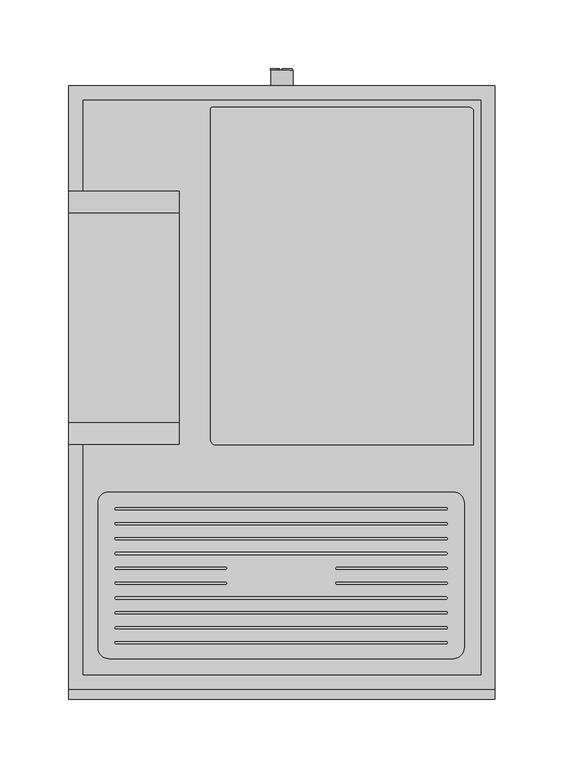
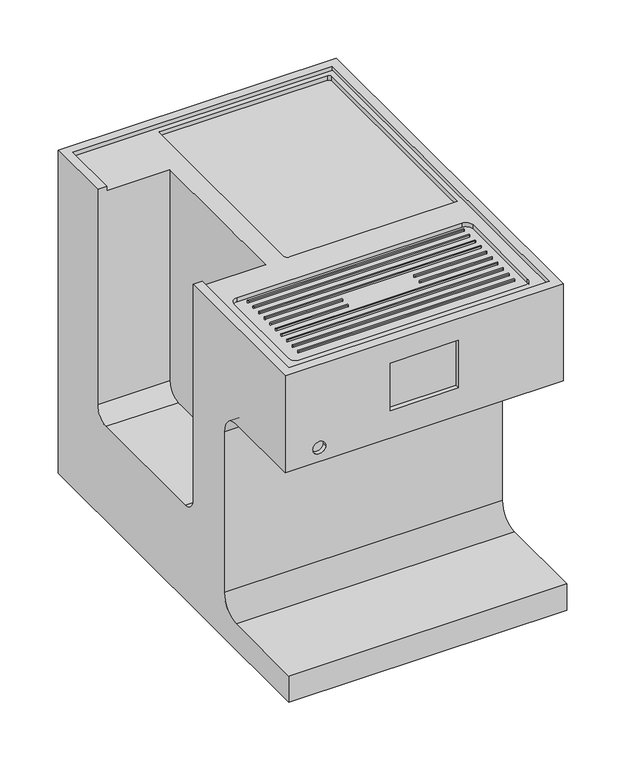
"""IFC4 building model written with IfcOpenShell, lengths in millimetres: proxy geometry, 11025220_NER_CM7550_BRWS : 29755010_NER_11025220_CM7550_BRWS."""

from ifc_helpers import new_model, si_unit, point, frame, frame_2d, origin, origin_with_axes, place, context, project, spatial, polyline, circle_curve, trimmed, segment, composite_curve, outline, extrude, source, transform, mapped, element, save
from ifc_brep_helpers import plane_surface, revolved_surface, advanced_brep


def specialty_equipment_c6b5fed6(model_context):
    return source(origin(), model_context, "Body", "SolidModel", [
        advanced_brep(
        [(-72.7464893, -6.5820312, 286.3395521), (-72.7464893, -6.5820312, 16.3993974), (-72.7464893, 0.0, 16.3993974), (-72.7464893, 0.0, 286.3395521), (67.1699982, -1.4311593, 242.6997663), (67.1699982, -1.4311593, 280.3997633), (67.1699982, 0.0, 280.3997633), (67.1699982, 0.0, 242.6997663), (139.3445587, -18.6554565, 387.0), (139.3445587, -260.9074012, 387.0), (139.3445587, -260.9074012, 392.0), (139.3445587, -18.6554565, 392.0), (136.3445587, -15.6554565, 387.0), (136.3445587, -15.6554565, 392.0), (-124.1509726, -433.3821149, 298.9499998), (-109.871069, -433.3821149, 298.9499998), (-109.871069, -438.3821149, 298.9499998), (-124.1509726, -438.3821149, 298.9499998), (155.0, -438.3821149, 397.0), (155.0, -438.3821149, 282.4328861), (155.0, -343.8005135, 282.4328861), (155.0, -320.8005135, 259.4328861), (155.0, -320.8005135, 70.3993974), (155.0, -343.8005135, 47.3993974), (155.0, -445.5820312, 47.3993974), (155.0, -445.5820312, 16.3993974), (155.0, -297.5804642, 16.3993974), (155.0, -297.5804642, 391.7036314), (155.0, -295.1106834, 391.7036314), (155.0, -295.1106834, 16.3993974), (155.0, -18.5962654, 16.3993974), (155.0, -18.5962654, 391.7036314), (155.0, -16.6439936, 391.7036314), (155.0, -16.6439936, 16.3993974), (155.0, 0.0, 16.3993974), (155.0, 0.0, 397.0), (155.0, -274.1723402, 377.3844175), (155.0, -40.3820038, 377.3844175), (155.0, -40.3820038, 370.415576), (155.0, -274.1723402, 370.415576), (-155.0, 0.0, 397.0), (-155.0, 0.0, 16.3993974), (-155.0, -445.5820312, 16.3993974), (-155.0, -445.5820312, 47.3993974), (-155.0, -343.8005135, 47.3993974), (-155.0, -320.8005135, 70.3993974), (-155.0, -320.8005135, 259.4328861), (-155.0, -343.8005135, 282.4328861), (-155.0, -438.3821149, 282.4328861), (-155.0, -438.3821149, 397.0), (-155.0, -260.8993144, 397.0), (-155.0, -260.8993144, 143.1722611), (-155.0, -244.8993144, 127.1722611), (-155.0, -92.0598421, 127.1722611), (-155.0, -76.0598421, 143.1722611), (-155.0, -76.0598421, 397.0), (-71.7464893, -6.5820312, 16.3993974), (-71.7464893, 0.0, 16.3993974), (71.7464893, 0.0, 16.3993974), (71.7464893, -6.5820312, 16.3993974), (72.7464893, -6.5820312, 16.3993974), (72.7464893, 0.0, 16.3993974), (148.8000031, -16.6439936, 16.3993974), (148.8000031, -18.5962654, 16.3993974), (148.8000031, -295.1106834, 16.3993974), (148.8000031, -297.5804642, 16.3993974), (72.7464893, 0.0, 286.3395521), (-71.7464893, 0.0, 285.3395521), (71.7464893, 0.0, 285.3395521), (-67.2299957, 0.0, 280.3997633), (-67.2299957, 0.0, 242.6997663), (66.1699982, 0.0, 279.3997633), (66.1699982, 0.0, 243.6997663), (-66.2299957, 0.0, 243.6997663), (-66.2299957, 0.0, 279.3997633), (-74.3005066, -92.0598421, 127.1722611), (-74.3005066, -76.0598421, 143.1722611), (-125.7733765, -295.1106834, 387.0), (124.609314, -295.1106834, 387.0), (124.609314, -295.1106834, 392.0), (-125.7733765, -295.1106834, 392.0), (148.8000031, -295.1106834, 391.7036314), (148.8000031, -297.5804642, 391.7036314), (-66.2299957, -1.4311593, 279.3997633), (66.1699982, -1.4311593, 279.3997633), (147.1000061, -274.1723402, 370.415576), (147.1000061, -274.1723402, 377.3844175), (147.1000061, -40.3820038, 377.3844175), (147.1000061, -40.3820038, 370.415576), (-71.7464893, -6.5820312, 285.3395521), (71.7464893, -6.5820312, 285.3395521), (72.7464893, -6.5820312, 286.3395521), (66.1699982, -1.4311593, 243.6997663), (-145.0, -76.0598421, 397.0), (-145.0, -9.9540739, 397.0), (145.0, -9.9540739, 397.0), (145.0, -428.3821149, 397.0), (-145.0, -428.3821149, 397.0), (-145.0, -260.8993144, 397.0), (-38.0, -438.3821149, 371.0), (38.0, -438.3821149, 371.0), (38.0, -438.3821149, 315.0), (-38.0, -438.3821149, 315.0), (-74.3005066, -244.8993144, 127.1722611), (-74.3005066, -260.8993144, 143.1722611), (-74.3005066, -260.8993144, 392.0), (-74.3005066, -76.0598421, 392.0), (-145.0, -260.8993144, 392.0), (-145.0, -76.0598421, 392.0), (-145.0, -428.3821149, 392.0), (145.0, -428.3821149, 392.0), (145.0, -9.9540739, 392.0), (-145.0, -9.9540739, 392.0), (-50.8837091, -15.6554565, 392.0), (-47.8837091, -260.9074012, 392.0), (-51.8837091, -256.9074012, 392.0), (-51.8837091, -16.6554565, 392.0), (132.609314, -303.1106834, 392.0), (132.609314, -408.1485367, 392.0), (124.609314, -416.1485367, 392.0), (-125.7733765, -416.1485367, 392.0), (-133.7733765, -408.1485367, 392.0), (-133.7733765, -303.1106834, 392.0), (-133.7733765, -303.1106834, 387.0), (-133.7733765, -408.1485367, 387.0), (-125.7733765, -416.1485367, 387.0), (124.609314, -416.1485367, 387.0), (132.609314, -408.1485367, 387.0), (132.609314, -303.1106834, 387.0), (-67.2299957, -1.4311593, 280.3997633), (-67.2299957, -1.4311593, 242.6997663), (-66.2299957, -1.4311593, 243.6997663), (-50.8837091, -15.6554565, 387.0), (-51.8837091, -16.6554565, 387.0), (-51.8837091, -256.9074012, 387.0), (-47.8837091, -260.9074012, 387.0), (148.8000031, -16.6439936, 391.7036314), (148.8000031, -18.5962654, 391.7036314), (38.0, -433.3821149, 371.0), (-38.0, -433.3821149, 371.0), (-38.0, -433.3821149, 315.0), (38.0, -433.3821149, 315.0)],
        [
            (0, 1),
            (1, 2),
            (2, 3),
            (3, 0),
            (4, 5),
            (5, 6),
            (6, 7),
            (7, 4),
            (8, 9),
            (9, 10),
            (10, 11),
            (11, 8),
            (12, 8, circle_curve(frame((136.3445587, -18.6554565, 387.0), z_axis=(0.0, 0.0, -1.0), x_axis=(1.0, 0.0, 0.0)), 3.0)),
            (11, 13, circle_curve(frame((136.3445587, -18.6554565, 392.0), z_axis=(0.0, 0.0, 1.0), x_axis=(1.0, 0.0, 0.0)), 3.0)),
            (13, 12),
            (14, 15, circle_curve(frame((-117.0110208, -433.3821149, 298.9499998), z_axis=(0.0, 1.0, 0.0), x_axis=(1.0, 0.0, 0.0)), 7.1399518)),
            (15, 16),
            (16, 17, circle_curve(frame((-117.0110208, -438.3821149, 298.9499998), z_axis=(0.0, -1.0, 0.0), x_axis=(1.0, 0.0, 0.0)), 7.1399518)),
            (17, 14),
            (18, 19),
            (19, 20),
            (20, 21, circle_curve(frame((155.0, -343.8005135, 259.4328861), z_axis=(-1.0, 0.0, 0.0), x_axis=(0.0, 1.0, 0.0)), 23.0)),
            (21, 22),
            (22, 23, circle_curve(frame((155.0, -343.8005135, 70.3993974), z_axis=(-1.0, 0.0, 0.0), x_axis=(0.0, 1.0, 0.0)), 23.0)),
            (23, 24),
            (24, 25),
            (25, 26),
            (26, 27),
            (27, 28),
            (28, 29),
            (29, 30),
            (30, 31),
            (31, 32),
            (32, 33),
            (33, 34),
            (34, 35),
            (35, 18),
            (36, 37),
            (37, 38),
            (38, 39),
            (39, 36),
            (40, 41),
            (41, 42),
            (42, 43),
            (43, 44),
            (44, 45, circle_curve(frame((-155.0, -343.8005135, 70.3993974), z_axis=(1.0, 0.0, 0.0), x_axis=(0.0, 1.0, 0.0)), 23.0)),
            (45, 46),
            (46, 47, circle_curve(frame((-155.0, -343.8005135, 259.4328861), z_axis=(1.0, 0.0, 0.0), x_axis=(0.0, 1.0, 0.0)), 23.0)),
            (47, 48),
            (48, 49),
            (49, 50),
            (50, 51),
            (51, 52, circle_curve(frame((-155.0, -244.8993144, 143.1722611), z_axis=(1.0, 0.0, 0.0), x_axis=(0.0, 1.0, 0.0)), 16.0)),
            (52, 53),
            (53, 54, circle_curve(frame((-155.0, -92.0598421, 143.1722611), z_axis=(1.0, 0.0, 0.0), x_axis=(0.0, 1.0, 0.0)), 16.0)),
            (54, 55),
            (55, 40),
            (41, 2),
            (1, 56),
            (56, 57),
            (57, 58),
            (58, 59),
            (59, 60),
            (60, 61),
            (61, 34),
            (33, 62),
            (62, 63),
            (63, 30),
            (29, 64),
            (64, 65),
            (65, 26),
            (25, 42),
            (61, 66),
            (66, 3),
            (40, 35),
            (57, 67),
            (67, 68),
            (68, 58),
            (69, 70),
            (70, 7),
            (6, 69),
            (71, 72),
            (72, 73),
            (73, 74),
            (74, 71),
            (24, 43),
            (75, 76, circle_curve(frame((-74.3005066, -92.0598421, 143.1722611), z_axis=(1.0, 0.0, 0.0), x_axis=(0.0, 1.0, 0.0)), 16.0)),
            (76, 54),
            (53, 75),
            (77, 78),
            (78, 79),
            (79, 80),
            (80, 77),
            (81, 64),
            (28, 81),
            (65, 82),
            (82, 27),
            (83, 84),
            (84, 71),
            (74, 83),
            (85, 86),
            (86, 36),
            (39, 85),
            (87, 88),
            (88, 38),
            (37, 87),
            (89, 90),
            (90, 68),
            (67, 89),
            (60, 91),
            (91, 66),
            (84, 92),
            (92, 72),
            (55, 93),
            (93, 94),
            (94, 95),
            (95, 96),
            (96, 97),
            (97, 98),
            (98, 50),
            (49, 18),
            (48, 19),
            (16, 17, circle_curve(frame((-117.0110208, -438.3821149, 298.9499998), z_axis=(0.0, 1.0, 0.0), x_axis=(1.0, 0.0, 0.0)), 7.1399518)),
            (99, 100),
            (100, 101),
            (101, 102),
            (102, 99),
            (47, 20),
            (46, 21),
            (45, 22),
            (44, 23),
            (75, 103),
            (103, 104, circle_curve(frame((-74.3005066, -244.8993144, 143.1722611), z_axis=(-1.0, 0.0, 0.0), x_axis=(0.0, 1.0, 0.0)), 16.0)),
            (104, 105),
            (105, 106),
            (106, 76),
            (104, 51),
            (98, 107),
            (107, 105),
            (103, 52),
            (106, 108),
            (108, 93),
            (109, 110),
            (110, 111),
            (111, 112),
            (112, 108),
            (107, 109),
            (113, 13),
            (10, 114),
            (114, 115, circle_curve(frame((-47.8837091, -256.9074012, 392.0), z_axis=(0.0, 0.0, -1.0), x_axis=(1.0, 0.0, 0.0)), 4.0)),
            (115, 116),
            (116, 113, circle_curve(frame((-50.8837091, -16.6554565, 392.0), z_axis=(0.0, 0.0, -1.0), x_axis=(1.0, 0.0, 0.0)), 1.0)),
            (79, 117, circle_curve(frame((124.609314, -303.1106834, 392.0), z_axis=(0.0, 0.0, -1.0), x_axis=(1.0, 0.0, 0.0)), 8.0)),
            (117, 118),
            (118, 119, circle_curve(frame((124.609314, -408.1485367, 392.0), z_axis=(0.0, 0.0, -1.0), x_axis=(1.0, 0.0, 0.0)), 8.0)),
            (119, 120),
            (120, 121, circle_curve(frame((-125.7733765, -408.1485367, 392.0), z_axis=(0.0, 0.0, -1.0), x_axis=(1.0, 0.0, 0.0)), 8.0)),
            (121, 122),
            (122, 80, circle_curve(frame((-125.7733765, -303.1106834, 392.0), z_axis=(0.0, 0.0, -1.0), x_axis=(1.0, 0.0, 0.0)), 8.0)),
            (109, 97),
            (96, 110),
            (95, 111),
            (94, 112),
            (77, 123, circle_curve(frame((-125.7733765, -303.1106834, 387.0), z_axis=(0.0, 0.0, 1.0), x_axis=(1.0, 0.0, 0.0)), 8.0)),
            (123, 124),
            (124, 125, circle_curve(frame((-125.7733765, -408.1485367, 387.0), z_axis=(0.0, 0.0, 1.0), x_axis=(1.0, 0.0, 0.0)), 8.0)),
            (125, 126),
            (126, 127, circle_curve(frame((124.609314, -408.1485367, 387.0), z_axis=(0.0, 0.0, 1.0), x_axis=(1.0, 0.0, 0.0)), 8.0)),
            (127, 128),
            (128, 78, circle_curve(frame((124.609314, -303.1106834, 387.0), z_axis=(0.0, 0.0, 1.0), x_axis=(1.0, 0.0, 0.0)), 8.0)),
            (122, 123),
            (121, 124),
            (120, 125),
            (119, 126),
            (118, 127),
            (117, 128),
            (129, 5),
            (4, 130),
            (130, 129),
            (83, 131),
            (131, 92),
            (130, 70),
            (69, 129),
            (12, 132),
            (132, 133, circle_curve(frame((-50.8837091, -16.6554565, 387.0), z_axis=(0.0, 0.0, 1.0), x_axis=(1.0, 0.0, 0.0)), 1.0)),
            (133, 134),
            (134, 135, circle_curve(frame((-47.8837091, -256.9074012, 387.0), z_axis=(0.0, 0.0, 1.0), x_axis=(1.0, 0.0, 0.0)), 4.0)),
            (135, 9),
            (113, 132),
            (116, 133),
            (115, 134),
            (114, 135),
            (14, 15, circle_curve(frame((-117.0110208, -433.3821149, 298.9499998), z_axis=(0.0, -1.0, 0.0), x_axis=(1.0, 0.0, 0.0)), 7.1399518)),
            (0, 91),
            (59, 90),
            (89, 56),
            (131, 73),
            (87, 86),
            (85, 88),
            (81, 82),
            (62, 136),
            (136, 137),
            (137, 63),
            (32, 136),
            (31, 137),
            (138, 139),
            (139, 140),
            (140, 141),
            (141, 138),
            (138, 100),
            (99, 139),
            (102, 140),
            (101, 141),
        ],
        [
            plane_surface(frame((-72.7464893, -6.5820312, 286.3395521), z_axis=(1.0, 0.0, 0.0), x_axis=(0.0, 1.0, 0.0))),
            plane_surface(frame((67.1699982, -1.4311593, 242.6997663), z_axis=(-1.0, 0.0, 0.0), x_axis=(0.0, 1.0, 0.0))),
            plane_surface(frame((139.3445587, -260.9074012, 397.0), z_axis=(-1.0, 0.0, 0.0), x_axis=(0.0, 0.0, -1.0))),
            revolved_surface(polyline([(139.3445587, -18.6554565, 392.0), (139.3445587, -18.6554565, 387.0)]), (136.3445587, -18.6554565, 387.0), (0.0, 0.0, 1.0)),
            revolved_surface(polyline([(-109.87106899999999, -438.3821149, 298.9499998), (-109.87106899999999, -433.3821149, 298.9499998)]), (-117.0110208, -433.3821149, 298.9499998), (0.0, -1.0, 0.0)),
            plane_surface(frame((155.0, -438.3821149, 397.0), z_axis=(1.0, 0.0, 0.0), x_axis=(0.0, 0.0, -1.0))),
            plane_surface(frame((-155.0, -438.3821149, 397.0), z_axis=(-1.0, 0.0, 0.0), x_axis=(0.0, 0.0, 1.0))),
            plane_surface(frame((155.0, -445.5820312, 16.3993974), z_axis=(0.0, 0.0, -1.0), x_axis=(-1.0, 0.0, 0.0))),
            plane_surface(frame((155.0, 0.0, 16.3993974), z_axis=(0.0, 1.0, 0.0), x_axis=(-1.0, 0.0, 0.0))),
            plane_surface(frame((155.0, -445.5820312, 47.3993974), z_axis=(0.0, -1.0, 0.0), x_axis=(-1.0, 0.0, 0.0))),
            revolved_surface(polyline([(-74.3005066, -76.0598421, 143.1722611), (-155.0, -76.0598421, 143.1722611)]), (-184.0228521, -92.0598421, 143.1722611), (1.0, 0.0, 0.0)),
            plane_surface(frame((124.609314, -295.1106834, 392.0), z_axis=(0.0, -1.0, 0.0), x_axis=(0.0, 0.0, -1.0))),
            plane_surface(frame((250.0, -295.1106834, 16.3993974), z_axis=(0.0, -1.0, 0.0), x_axis=(-1.0, 0.0, 0.0))),
            plane_surface(frame((250.0, -297.5804642, 391.7036314), z_axis=(0.0, 1.0, 0.0), x_axis=(-1.0, 0.0, 0.0))),
            plane_surface(frame((-66.2299957, -1.4311593, 279.3997633), z_axis=(0.0, 0.0, 1.0), x_axis=(0.0, 1.0, 0.0))),
            plane_surface(frame((190.8403148, -274.1723402, 377.3844175), z_axis=(0.0, 1.0, 0.0), x_axis=(-1.0, 0.0, 0.0))),
            plane_surface(frame((190.8403148, -40.3820038, 370.415576), z_axis=(0.0, -1.0, 0.0), x_axis=(-1.0, 0.0, 0.0))),
            plane_surface(frame((-71.7464893, -6.5820312, 285.3395521), z_axis=(0.0, 0.0, 1.0), x_axis=(0.0, 1.0, 0.0))),
            plane_surface(frame((72.7464893, -6.5820312, 16.3993974), z_axis=(-1.0, 0.0, 0.0), x_axis=(0.0, 1.0, 0.0))),
            plane_surface(frame((66.1699982, -1.4311593, 279.3997633), z_axis=(1.0, 0.0, 0.0), x_axis=(0.0, 1.0, 0.0))),
            plane_surface(frame((155.0, 0.0, 397.0), z_axis=(0.0, 0.0, 1.0), x_axis=(-1.0, 0.0, 0.0))),
            plane_surface(frame((155.0, -438.3821149, 397.0), z_axis=(0.0, -1.0, 0.0), x_axis=(-1.0, 0.0, 0.0))),
            plane_surface(frame((155.0, -438.3821149, 282.4328861), z_axis=(0.0, 0.0, -1.0), x_axis=(-1.0, 0.0, 0.0))),
            revolved_surface(polyline([(-155.0, -320.8005135, 259.4328861), (155.0, -320.8005135, 259.4328861)]), (-155.0, -343.8005135, 259.4328861), (-1.0, 0.0, 0.0)),
            plane_surface(frame((155.0, -320.8005135, 259.4328861), z_axis=(0.0, -1.0, 0.0), x_axis=(-1.0, 0.0, 0.0))),
            revolved_surface(polyline([(-155.0, -320.8005135, 70.3993974), (155.0, -320.8005135, 70.3993974)]), (-155.0, -343.8005135, 70.3993974), (-1.0, 0.0, 0.0)),
            plane_surface(frame((155.0, -343.8005135, 47.3993974), z_axis=(0.0, 0.0, 1.0), x_axis=(-1.0, 0.0, 0.0))),
            plane_surface(frame((-74.3005066, -260.8993144, 397.0), z_axis=(-1.0, 0.0, 0.0), x_axis=(0.0, 0.0, -1.0))),
            plane_surface(frame((-74.3005066, -260.8993144, 397.0), z_axis=(0.0, 1.0, 0.0), x_axis=(-1.0, 0.0, 0.0))),
            revolved_surface(polyline([(-74.3005066, -228.8993144, 143.1722611), (-155.0, -228.8993144, 143.1722611)]), (-184.0228521, -244.8993144, 143.1722611), (1.0, 0.0, 0.0)),
            plane_surface(frame((-74.3005066, -244.8993144, 127.1722611), z_axis=(0.0, 0.0, 1.0), x_axis=(-1.0, 0.0, 0.0))),
            plane_surface(frame((-74.3005066, -76.0598421, 143.1722611), z_axis=(0.0, -1.0, 0.0), x_axis=(-1.0, 0.0, 0.0))),
            plane_surface(frame((149.1561824, -428.3821149, 392.0), z_axis=(0.0, 0.0, 1.0), x_axis=(-1.0, 0.0, 0.0))),
            plane_surface(frame((-145.0, -428.3821149, 397.0), z_axis=(0.0, 1.0, 0.0), x_axis=(0.0, 0.0, -1.0))),
            plane_surface(frame((145.0, -428.3821149, 397.0), z_axis=(-1.0, 0.0, 0.0), x_axis=(0.0, 0.0, -1.0))),
            plane_surface(frame((145.0, -9.9540739, 397.0), z_axis=(0.0, -1.0, 0.0), x_axis=(0.0, 0.0, -1.0))),
            plane_surface(frame((-145.0, -9.9540739, 397.0), z_axis=(1.0, 0.0, 0.0), x_axis=(0.0, 0.0, -1.0))),
            plane_surface(frame((-131.2630187, -295.1106834, 387.0), z_axis=(0.0, 0.0, 1.0), x_axis=(1.0, 0.0, 0.0))),
            revolved_surface(polyline([(-117.7733765, -303.1106834, 392.0), (-117.7733765, -303.1106834, 387.0)]), (-125.7733765, -303.1106834, 387.0), (0.0, 0.0, 1.0)),
            plane_surface(frame((-133.7733765, -303.1106834, 392.0), z_axis=(1.0, 0.0, 0.0), x_axis=(0.0, 0.0, -1.0))),
            revolved_surface(polyline([(-117.7733765, -408.1485367, 392.0), (-117.7733765, -408.1485367, 387.0)]), (-125.7733765, -408.1485367, 387.0), (0.0, 0.0, 1.0)),
            plane_surface(frame((-125.7733765, -416.1485367, 392.0), z_axis=(0.0, 1.0, 0.0), x_axis=(0.0, 0.0, -1.0))),
            revolved_surface(polyline([(132.60931399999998, -408.1485367, 392.0), (132.60931399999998, -408.1485367, 387.0)]), (124.609314, -408.1485367, 387.0), (0.0, 0.0, 1.0)),
            plane_surface(frame((132.609314, -408.1485367, 392.0), z_axis=(-1.0, 0.0, 0.0), x_axis=(0.0, 0.0, -1.0))),
            revolved_surface(polyline([(132.60931399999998, -303.1106834, 392.0), (132.60931399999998, -303.1106834, 387.0)]), (124.609314, -303.1106834, 387.0), (0.0, 0.0, 1.0)),
            plane_surface(frame((-67.2299957, -1.4311593, 235.6799621), z_axis=(0.0, 1.0, 0.0), x_axis=(0.0, 0.0, -1.0))),
            plane_surface(frame((-67.2299957, -1.4311593, 280.3997633), z_axis=(1.0, 0.0, 0.0), x_axis=(0.0, 1.0, 0.0))),
            plane_surface(frame((-67.2299957, -1.4311593, 242.6997663), z_axis=(0.0, 0.0, 1.0), x_axis=(0.0, 1.0, 0.0))),
            plane_surface(frame((67.1699982, -1.4311593, 280.3997633), z_axis=(0.0, 0.0, -1.0), x_axis=(0.0, 1.0, 0.0))),
            plane_surface(frame((-51.7409897, -15.6554565, 387.0), z_axis=(0.0, 0.0, 1.0), x_axis=(1.0, 0.0, 0.0))),
            plane_surface(frame((136.3445587, -15.6554565, 397.0), z_axis=(0.0, -1.0, 0.0), x_axis=(0.0, 0.0, -1.0))),
            revolved_surface(polyline([(-49.8837091, -16.6554565, 392.0), (-49.8837091, -16.6554565, 387.0)]), (-50.8837091, -16.6554565, 387.0), (0.0, 0.0, 1.0)),
            plane_surface(frame((-51.8837091, -16.6554565, 397.0), z_axis=(1.0, 0.0, 0.0), x_axis=(0.0, 0.0, -1.0))),
            revolved_surface(polyline([(-43.8837091, -256.9074012, 392.0), (-43.8837091, -256.9074012, 387.0)]), (-47.8837091, -256.9074012, 387.0), (0.0, 0.0, 1.0)),
            plane_surface(frame((-47.8837091, -260.9074012, 397.0), z_axis=(0.0, 1.0, 0.0), x_axis=(0.0, 0.0, -1.0))),
            plane_surface(frame((-109.871069, -433.3821149, 298.9499998), z_axis=(0.0, -1.0, 0.0), x_axis=(0.0, 0.0, -1.0))),
            plane_surface(frame((-72.7464893, -6.5820312, 286.3395521), z_axis=(0.0, 1.0, 0.0), x_axis=(0.0, 0.0, -1.0))),
            plane_surface(frame((-71.7464893, -6.5820312, 16.3993974), z_axis=(-1.0, 0.0, 0.0), x_axis=(0.0, 1.0, 0.0))),
            plane_surface(frame((71.7464893, -6.5820312, 285.3395521), z_axis=(1.0, 0.0, 0.0), x_axis=(0.0, 1.0, 0.0))),
            plane_surface(frame((72.7464893, -6.5820312, 286.3395521), z_axis=(0.0, 0.0, -1.0), x_axis=(0.0, 1.0, 0.0))),
            plane_surface(frame((66.1699982, -1.4311593, 243.6997663), z_axis=(0.0, 0.0, -1.0), x_axis=(0.0, 1.0, 0.0))),
            plane_surface(frame((-66.2299957, -1.4311593, 243.6997663), z_axis=(-1.0, 0.0, 0.0), x_axis=(0.0, 1.0, 0.0))),
            plane_surface(frame((147.1000061, -274.1723402, 377.3844175), z_axis=(1.0, 0.0, 0.0), x_axis=(0.0, 1.0, 0.0))),
            plane_surface(frame((190.8403148, -40.3820038, 377.3844175), z_axis=(0.0, 0.0, -1.0), x_axis=(-1.0, 0.0, 0.0))),
            plane_surface(frame((190.8403148, -274.1723402, 370.415576), z_axis=(0.0, 0.0, 1.0), x_axis=(-1.0, 0.0, 0.0))),
            plane_surface(frame((148.8000031, -297.5804642, 391.7036314), z_axis=(1.0, 0.0, 0.0), x_axis=(0.0, 1.0, 0.0))),
            plane_surface(frame((250.0, -295.1106834, 391.7036314), z_axis=(0.0, 0.0, -1.0), x_axis=(-1.0, 0.0, 0.0))),
            plane_surface(frame((250.0, -16.6439936, 16.3993974), z_axis=(0.0, -1.0, 0.0), x_axis=(-1.0, 0.0, 0.0))),
            plane_surface(frame((250.0, -16.6439936, 391.7036314), z_axis=(0.0, 0.0, -1.0), x_axis=(-1.0, 0.0, 0.0))),
            plane_surface(frame((250.0, -18.5962654, 391.7036314), z_axis=(0.0, 1.0, 0.0), x_axis=(-1.0, 0.0, 0.0))),
            plane_surface(frame((-38.0, -433.3821149, 371.0), z_axis=(0.0, -1.0, 0.0), x_axis=(1.0, 0.0, 0.0))),
            plane_surface(frame((38.0, -445.3283722, 371.0), z_axis=(0.0, 0.0, -1.0), x_axis=(0.0, 1.0, 0.0))),
            plane_surface(frame((-38.0, -445.3283722, 371.0), z_axis=(1.0, 0.0, 0.0), x_axis=(0.0, 1.0, 0.0))),
            plane_surface(frame((-38.0, -445.3283722, 315.0), z_axis=(0.0, 0.0, 1.0), x_axis=(0.0, 1.0, 0.0))),
            plane_surface(frame((38.0, -445.3283722, 315.0), z_axis=(-1.0, 0.0, 0.0), x_axis=(0.0, 1.0, 0.0))),
        ],
        [
            (0, [[1, 2, 3, 4]]),
            (1, [[5, 6, 7, 8]]),
            (2, [[9, 10, 11, 12]]),
            (3, [[13, -12, 14, 15]]),
            (4, [[16, 17, 18, 19]]),
            (5, [[20, 21, 22, 23, 24, 25, 26, 27, 28, 29, 30, 31, 32, 33, 34, 35, 36, 37], [38, 39, 40, 41]]),
            (6, [[42, 43, 44, 45, 46, 47, 48, 49, 50, 51, 52, 53, 54, 55, 56, 57]]),
            (7, [[-43, 58, -2, 59, 60, 61, 62, 63, 64, 65, -35, 66, 67, 68, -31, 69, 70, 71, -27, 72]]),
            (8, [[-36, -65, 73, 74, -3, -58, -42, 75]]),
            (8, [[-61, 76, 77, 78], [79, 80, -7, 81]]),
            (8, [[82, 83, 84, 85]]),
            (9, [[-26, 86, -44, -72]]),
            (10, [[87, 88, -55, 89]]),
            (11, [[90, 91, 92, 93]]),
            (12, [[94, -69, -30, 95]]),
            (13, [[96, 97, -28, -71]]),
            (14, [[98, 99, -85, 100]]),
            (15, [[101, 102, -41, 103]]),
            (16, [[104, 105, -39, 106]]),
            (17, [[107, 108, -77, 109]]),
            (18, [[110, 111, -73, -64]]),
            (19, [[112, 113, -82, -99]]),
            (20, [[-37, -75, -57, 114, 115, 116, 117, 118, 119, 120, -51, 121]]),
            (21, [[-20, -121, -50, 122], [123, -18], [124, 125, 126, 127]]),
            (22, [[-21, -122, -49, 128]]),
            (23, [[-22, -128, -48, 129]]),
            (24, [[-23, -129, -47, 130]]),
            (25, [[-24, -130, -46, 131]]),
            (26, [[-25, -131, -45, -86]]),
            (27, [[-87, 132, 133, 134, 135, 136]]),
            (28, [[-134, 137, -52, -120, 138, 139]]),
            (29, [[-133, 140, -53, -137]]),
            (30, [[-132, -89, -54, -140]]),
            (31, [[-136, 141, 142, -114, -56, -88]]),
            (32, [[143, 144, 145, 146, -141, -135, -139, 147], [148, -14, -11, 149, 150, 151, 152], [-92, 153, 154, 155, 156, 157, 158, 159]]),
            (33, [[-143, 160, -118, 161]]),
            (34, [[-144, -161, -117, 162]]),
            (35, [[-145, -162, -116, 163]]),
            (36, [[-160, -147, -138, -119]]),
            (36, [[-163, -115, -142, -146]]),
            (37, [[-90, 164, 165, 166, 167, 168, 169, 170]]),
            (38, [[-164, -93, -159, 171]]),
            (39, [[-165, -171, -158, 172]]),
            (40, [[-166, -172, -157, 173]]),
            (41, [[-167, -173, -156, 174]]),
            (42, [[-168, -174, -155, 175]]),
            (43, [[-169, -175, -154, 176]]),
            (44, [[-170, -176, -153, -91]]),
            (45, [[177, -5, 178, 179], [-98, 180, 181, -112]]),
            (46, [[-179, 182, -79, 183]]),
            (47, [[-178, -8, -80, -182]]),
            (48, [[-177, -183, -81, -6]]),
            (49, [[184, 185, 186, 187, 188, -9, -13]]),
            (50, [[-184, -15, -148, 189]]),
            (51, [[-185, -189, -152, 190]]),
            (52, [[-186, -190, -151, 191]]),
            (53, [[-187, -191, -150, 192]]),
            (54, [[-188, -192, -149, -10]]),
            (55, [[193, -16]]),
            (4, [[-193, -19, -123, -17]]),
            (56, [[194, -110, -63, 195, -107, 196, -59, -1]]),
            (57, [[-196, -109, -76, -60]]),
            (58, [[-195, -62, -78, -108]]),
            (59, [[-194, -4, -74, -111]]),
            (60, [[-181, 197, -83, -113]]),
            (61, [[-180, -100, -84, -197]]),
            (62, [[198, -101, 199, -104]]),
            (63, [[-198, -106, -38, -102]]),
            (64, [[-199, -103, -40, -105]]),
            (65, [[200, -96, -70, -94]]),
            (65, [[201, 202, 203, -67]]),
            (66, [[-200, -95, -29, -97]]),
            (67, [[-201, -66, -34, 204]]),
            (68, [[-202, -204, -33, 205]]),
            (69, [[-203, -205, -32, -68]]),
            (70, [[206, 207, 208, 209]]),
            (71, [[-206, 210, -124, 211]]),
            (72, [[-207, -211, -127, 212]]),
            (73, [[-208, -212, -126, 213]]),
            (74, [[-209, -213, -125, -210]]),
        ],
    ),
        extrude(outline(composite_curve([segment(trimmed(circle_curve(frame_2d((-111.6838977, -47.0643921)), 1.0), [point((-111.6838977, -46.0643921))], [point((-110.6838977, -47.0643921))], False, "CARTESIAN"), True, "CONTINUOUS"), segment(polyline([(-110.6838977, -47.0643921), (-110.6838977, -68.8996887)]), True, "CONTINUOUS"), segment(trimmed(circle_curve(frame_2d((-111.6838977, -68.8996887)), 1.0), [point((-110.6838977, -68.8996887))], [point((-111.6838977, -69.8996887))], False, "CARTESIAN"), True, "CONTINUOUS"), segment(polyline([(-111.6838977, -69.8996887), (-126.8176422, -69.8996887)]), True, "CONTINUOUS"), segment(trimmed(circle_curve(frame_2d((-126.8176422, -68.8996887)), 1.0), [point((-126.8176422, -69.8996887))], [point((-127.8176422, -68.8996887))], False, "CARTESIAN"), True, "CONTINUOUS"), segment(polyline([(-127.8176422, -68.8996887), (-127.8176422, -47.0643921)]), True, "CONTINUOUS"), segment(trimmed(circle_curve(frame_2d((-126.8176422, -47.0643921)), 1.0), [point((-127.8176422, -47.0643921))], [point((-126.8176422, -46.0643921))], False, "CARTESIAN"), True, "CONTINUOUS"), segment(polyline([(-126.8176422, -46.0643921), (-111.6838977, -46.0643921)]), True, "CONTINUOUS")], self_intersect=False)), origin_with_axes(), (0.0, 0.0, 1.0), 3.6999998),
        extrude(outline(composite_curve([segment(polyline([(89.6808126, -46.0643921), (104.8176422, -46.0643921)]), True, "CONTINUOUS"), segment(trimmed(circle_curve(frame_2d((104.8176422, -47.0643921)), 1.0), [point((104.8176422, -46.0643921))], [point((105.8176422, -47.0643921))], False, "CARTESIAN"), True, "CONTINUOUS"), segment(polyline([(105.8176422, -47.0643921), (105.8176422, -68.8996887)]), True, "CONTINUOUS"), segment(trimmed(circle_curve(frame_2d((104.8176422, -68.8996887)), 1.0), [point((105.8176422, -68.8996887))], [point((104.8176422, -69.8996887))], False, "CARTESIAN"), True, "CONTINUOUS"), segment(polyline([(104.8176422, -69.8996887), (89.6808126, -69.8996887)]), True, "CONTINUOUS"), segment(trimmed(circle_curve(frame_2d((89.6808126, -68.8996887)), 1.0), [point((89.6808126, -69.8996887))], [point((88.6808126, -68.8996887))], False, "CARTESIAN"), True, "CONTINUOUS"), segment(polyline([(88.6808126, -68.8996887), (88.6808126, -47.0643921)]), True, "CONTINUOUS"), segment(trimmed(circle_curve(frame_2d((89.6808126, -47.0643921)), 1.0), [point((88.6808126, -47.0643921))], [point((89.6808126, -46.0643921))], False, "CARTESIAN"), True, "CONTINUOUS")], self_intersect=False)), origin_with_axes(), (0.0, 0.0, 1.0), 3.6999998),
        extrude(outline(composite_curve([segment(polyline([(112.2548065, -289.4182587), (127.87898, -289.4182587)]), True, "CONTINUOUS"), segment(trimmed(circle_curve(frame_2d((127.87898, -290.4182587)), 1.0), [point((127.87898, -289.4182587))], [point((128.87898, -290.4182587))], False, "CARTESIAN"), True, "CONTINUOUS"), segment(polyline([(128.87898, -290.4182587), (128.87898, -312.0491112)]), True, "CONTINUOUS"), segment(trimmed(circle_curve(frame_2d((127.87898, -312.0491112)), 1.0), [point((128.87898, -312.0491112))], [point((127.87898, -313.0491112))], False, "CARTESIAN"), True, "CONTINUOUS"), segment(polyline([(127.87898, -313.0491112), (112.2548065, -313.0491112)]), True, "CONTINUOUS"), segment(trimmed(circle_curve(frame_2d((112.2548065, -312.0491112)), 1.0), [point((112.2548065, -313.0491112))], [point((111.2548065, -312.0491112))], False, "CARTESIAN"), True, "CONTINUOUS"), segment(polyline([(111.2548065, -312.0491112), (111.2548065, -290.4182587)]), True, "CONTINUOUS"), segment(trimmed(circle_curve(frame_2d((112.2548065, -290.4182587)), 1.0), [point((111.2548065, -290.4182587))], [point((112.2548065, -289.4182587))], False, "CARTESIAN"), True, "CONTINUOUS")], self_intersect=False)), origin_with_axes(), (0.0, 0.0, 1.0), 3.6999998),
        extrude(outline(composite_curve([segment(trimmed(circle_curve(frame_2d((-112.509615, -290.4182587)), 1.0), [point((-112.509615, -289.4182587))], [point((-111.509615, -290.4182587))], False, "CARTESIAN"), True, "CONTINUOUS"), segment(polyline([(-111.509615, -290.4182587), (-111.509615, -312.0491112)]), True, "CONTINUOUS"), segment(trimmed(circle_curve(frame_2d((-112.509615, -312.0491112)), 1.0), [point((-111.509615, -312.0491112))], [point((-112.509615, -313.0491112))], False, "CARTESIAN"), True, "CONTINUOUS"), segment(polyline([(-112.509615, -313.0491112), (-128.3469722, -313.0491112)]), True, "CONTINUOUS"), segment(trimmed(circle_curve(frame_2d((-128.3469722, -312.0491112)), 1.0), [point((-128.3469722, -313.0491112))], [point((-129.3469722, -312.0491112))], False, "CARTESIAN"), True, "CONTINUOUS"), segment(polyline([(-129.3469722, -312.0491112), (-129.3469722, -290.4182587)]), True, "CONTINUOUS"), segment(trimmed(circle_curve(frame_2d((-128.3469722, -290.4182587)), 1.0), [point((-129.3469722, -290.4182587))], [point((-128.3469722, -289.4182587))], False, "CARTESIAN"), True, "CONTINUOUS"), segment(polyline([(-128.3469722, -289.4182587), (-112.509615, -289.4182587)]), True, "CONTINUOUS")], self_intersect=False)), origin_with_axes(), (0.0, 0.0, 1.0), 3.6999998),
        extrude(outline(composite_curve([segment(trimmed(circle_curve(frame_2d((118.2694755, -386.4050159)), 5.0), [point((118.2694755, -381.4050159))], [point((123.2694755, -386.4050159))], False, "CARTESIAN"), True, "CONTINUOUS"), segment(polyline([(123.2694755, -386.4050159), (123.2694755, -388.8400154)]), True, "CONTINUOUS"), segment(trimmed(circle_curve(frame_2d((118.2694755, -388.8400154)), 5.0), [point((123.2694755, -388.8400154))], [point((118.2694755, -393.8400154))], False, "CARTESIAN"), True, "CONTINUOUS"), segment(polyline([(118.2694755, -393.8400154), (97.8140391, -393.8400154)]), True, "CONTINUOUS"), segment(trimmed(circle_curve(frame_2d((97.8140391, -388.8400154)), 5.0), [point((97.8140391, -393.8400154))], [point((92.8140391, -388.8400154))], False, "CARTESIAN"), True, "CONTINUOUS"), segment(polyline([(92.8140391, -388.8400154), (92.8140391, -386.4050159)]), True, "CONTINUOUS"), segment(trimmed(circle_curve(frame_2d((97.8140391, -386.4050159)), 5.0), [point((92.8140391, -386.4050159))], [point((97.8140391, -381.4050159))], False, "CARTESIAN"), True, "CONTINUOUS"), segment(polyline([(97.8140391, -381.4050159), (118.2694755, -381.4050159)]), True, "CONTINUOUS")], self_intersect=False)), origin_with_axes(), (0.0, 0.0, 1.0), 3.6999998),
        extrude(outline(composite_curve([segment(polyline([(-118.2694755, -381.4050159), (-97.8140391, -381.4050159)]), True, "CONTINUOUS"), segment(trimmed(circle_curve(frame_2d((-97.8140391, -386.4050159)), 5.0), [point((-97.8140391, -381.4050159))], [point((-92.8140391, -386.4050159))], False, "CARTESIAN"), True, "CONTINUOUS"), segment(polyline([(-92.8140391, -386.4050159), (-92.8140391, -388.8400154)]), True, "CONTINUOUS"), segment(trimmed(circle_curve(frame_2d((-97.8140391, -388.8400154)), 5.0), [point((-92.8140391, -388.8400154))], [point((-97.8140391, -393.8400154))], False, "CARTESIAN"), True, "CONTINUOUS"), segment(polyline([(-97.8140391, -393.8400154), (-118.2694755, -393.8400154)]), True, "CONTINUOUS"), segment(trimmed(circle_curve(frame_2d((-118.2694755, -388.8400154)), 5.0), [point((-118.2694755, -393.8400154))], [point((-123.2694755, -388.8400154))], False, "CARTESIAN"), True, "CONTINUOUS"), segment(polyline([(-123.2694755, -388.8400154), (-123.2694755, -386.4050159)]), True, "CONTINUOUS"), segment(trimmed(circle_curve(frame_2d((-118.2694755, -386.4050159)), 5.0), [point((-123.2694755, -386.4050159))], [point((-118.2694755, -381.4050159))], False, "CARTESIAN"), True, "CONTINUOUS")], self_intersect=False)), origin_with_axes(), (0.0, 0.0, 1.0), 3.6999998),
        extrude(outline(composite_curve([segment(polyline([(124.25, -32.2840881), (114.25, -32.2840881)]), True, "CONTINUOUS"), segment(trimmed(circle_curve(frame_2d((114.25, -29.0820313)), 3.2020569), [point((114.25, -32.2840881))], [point((114.25, -25.8799744))], False, "CARTESIAN"), True, "CONTINUOUS"), segment(polyline([(114.25, -25.8799744), (124.25, -25.8799744)]), True, "CONTINUOUS"), segment(trimmed(circle_curve(frame_2d((124.25, -29.0820313)), 3.2020569), [point((124.25, -25.8799744))], [point((124.25, -32.2840881))], False, "CARTESIAN"), True, "CONTINUOUS")], self_intersect=False)), origin_with_axes(), (0.0, 0.0, 1.0), 3.6999998),
        extrude(outline(composite_curve([segment(trimmed(circle_curve(frame_2d((-124.25, -29.0820313)), 3.2020569), [point((-124.25, -32.2840881))], [point((-124.25, -25.8799744))], False, "CARTESIAN"), True, "CONTINUOUS"), segment(polyline([(-124.25, -25.8799744), (-114.25, -25.8799744)]), True, "CONTINUOUS"), segment(trimmed(circle_curve(frame_2d((-114.25, -29.0820313)), 3.2020569), [point((-114.25, -25.8799744))], [point((-114.25, -32.2840881))], False, "CARTESIAN"), True, "CONTINUOUS"), segment(polyline([(-114.25, -32.2840881), (-124.25, -32.2840881)]), True, "CONTINUOUS")], self_intersect=False)), origin_with_axes(), (0.0, 0.0, 1.0), 3.6999998),
        extrude(outline(polyline([(11.3993974, -1.8835558), (21.4450284, -1.8835558), (21.4450284, -3.1392597), (12.6551013, -3.1392597), (12.6551013, -8.1620752), (11.3993974, -8.1620752), (11.3993974, -1.8835558)])), frame((0.0, 11.4037346, 0.0), z_axis=(0.0, 1.0, 0.0), x_axis=(0.0, 0.0, 1.0)), (0.0, 0.0, 1.0), 1.0),
        extrude(outline(polyline([(11.3993974, 7.3772603), (21.4450284, 7.3772603), (21.4450284, 0.156963), (20.1893246, 0.156963), (20.1893246, 6.1215564), (17.2070279, 6.1215564), (17.2070279, 0.470889), (15.951324, 0.470889), (15.951324, 6.1215564), (12.6551013, 6.1215564), (12.6551013, 0.0), (11.3993974, 0.0), (11.3993974, 7.3772603)])), frame((0.0, 11.4037346, 0.0), z_axis=(0.0, 1.0, 0.0), x_axis=(0.0, 0.0, 1.0)), (0.0, 0.0, 1.0), 1.0),
        extrude(outline(composite_curve([segment(trimmed(circle_curve(frame_2d((16.3993974, 0.0)), 8.0), [point((16.3993974, -8.0))], [point((16.3993974, 8.0))], False, "CARTESIAN"), True, "CONTINUOUS"), segment(trimmed(circle_curve(frame_2d((16.3993974, 0.0)), 8.0), [point((16.3993974, 8.0))], [point((16.3993974, -8.0))], False, "CARTESIAN"), True, "CONTINUOUS")], self_intersect=False)), frame((0.0, -18.5962654, 0.0), z_axis=(0.0, 1.0, 0.0), x_axis=(0.0, 0.0, 1.0)), (0.0, 0.0, 1.0), 30.0),
        extrude(outline(composite_curve([segment(trimmed(circle_curve(frame_2d((119.4179687, -329.0094278)), 0.8000011), [point((119.4179687, -328.2094266))], [point((119.4179687, -329.8094289))], False, "CARTESIAN"), True, "CONTINUOUS"), segment(polyline([(119.4179687, -329.8094289), (-120.5820313, -329.8094289)]), True, "CONTINUOUS"), segment(trimmed(circle_curve(frame_2d((-120.5820313, -329.0094278)), 0.8000011), [point((-120.5820313, -329.8094289))], [point((-120.5820313, -328.2094266))], False, "CARTESIAN"), True, "CONTINUOUS"), segment(polyline([(-120.5820313, -328.2094266), (119.4179687, -328.2094266)]), True, "CONTINUOUS")], self_intersect=False)), frame((0.0, 0.0, 392.0), z_axis=(0.0, 0.0, 1.0), x_axis=(1.0, 0.0, 0.0)), (0.0, 0.0, 1.0), 2.0149755),
        extrude(outline(composite_curve([segment(trimmed(circle_curve(frame_2d((119.4179687, -372.1654484)), 0.8000011), [point((119.4179687, -371.3654473))], [point((119.4179687, -372.9654496))], False, "CARTESIAN"), True, "CONTINUOUS"), segment(polyline([(119.4179687, -372.9654496), (-120.5820313, -372.9654496)]), True, "CONTINUOUS"), segment(trimmed(circle_curve(frame_2d((-120.5820313, -372.1654484)), 0.8000011), [point((-120.5820313, -372.9654496))], [point((-120.5820313, -371.3654473))], False, "CARTESIAN"), True, "CONTINUOUS"), segment(polyline([(-120.5820313, -371.3654473), (119.4179687, -371.3654473)]), True, "CONTINUOUS")], self_intersect=False)), frame((0.0, 0.0, 392.0), z_axis=(0.0, 0.0, 1.0), x_axis=(1.0, 0.0, 0.0)), (0.0, 0.0, 1.0), 2.0149755),
        extrude(outline(composite_curve([segment(trimmed(circle_curve(frame_2d((119.4179687, -307.3654499)), 0.8000011), [point((119.4179687, -306.5654488))], [point((119.4179687, -308.165451))], False, "CARTESIAN"), True, "CONTINUOUS"), segment(polyline([(119.4179687, -308.165451), (-120.5820313, -308.165451)]), True, "CONTINUOUS"), segment(trimmed(circle_curve(frame_2d((-120.5820313, -307.3654499)), 0.8000011), [point((-120.5820313, -308.165451))], [point((-120.5820313, -306.5654488))], False, "CARTESIAN"), True, "CONTINUOUS"), segment(polyline([(-120.5820313, -306.5654488), (119.4179687, -306.5654488)]), True, "CONTINUOUS")], self_intersect=False)), frame((0.0, 0.0, 392.0), z_axis=(0.0, 0.0, 1.0), x_axis=(1.0, 0.0, 0.0)), (0.0, 0.0, 1.0), 2.0149755),
        extrude(outline(composite_curve([segment(trimmed(circle_curve(frame_2d((119.4179687, -318.1214705)), 0.8000011), [point((119.4179687, -317.3214693))], [point((119.4179687, -318.9214716))], False, "CARTESIAN"), True, "CONTINUOUS"), segment(polyline([(119.4179687, -318.9214716), (-120.5820313, -318.9214716)]), True, "CONTINUOUS"), segment(trimmed(circle_curve(frame_2d((-120.5820313, -318.1214705)), 0.8000011), [point((-120.5820313, -318.9214716))], [point((-120.5820313, -317.3214693))], False, "CARTESIAN"), True, "CONTINUOUS"), segment(polyline([(-120.5820313, -317.3214693), (119.4179687, -317.3214693)]), True, "CONTINUOUS")], self_intersect=False)), frame((0.0, 0.0, 392.0), z_axis=(0.0, 0.0, 1.0), x_axis=(1.0, 0.0, 0.0)), (0.0, 0.0, 1.0), 2.0149755),
        extrude(outline(composite_curve([segment(trimmed(circle_curve(frame_2d((-41.1506691, -361.365449)), 0.8000002), [point((-41.1506691, -360.5654488))], [point((-41.1506691, -362.1654491))], False, "CARTESIAN"), True, "CONTINUOUS"), segment(polyline([(-41.1506691, -362.1654491), (-120.5820313, -362.1654491)]), True, "CONTINUOUS"), segment(trimmed(circle_curve(frame_2d((-120.5820313, -361.365449)), 0.8000002), [point((-120.5820313, -362.1654491))], [point((-120.5820313, -360.5654488))], False, "CARTESIAN"), True, "CONTINUOUS"), segment(polyline([(-120.5820313, -360.5654488), (-41.1506691, -360.5654488)]), True, "CONTINUOUS")], self_intersect=False)), frame((0.0, 0.0, 392.0), z_axis=(0.0, 0.0, 1.0), x_axis=(1.0, 0.0, 0.0)), (0.0, 0.0, 1.0), 2.0149755),
        extrude(outline(composite_curve([segment(trimmed(circle_curve(frame_2d((119.4253311, -361.365449)), 0.8000002), [point((119.4253311, -360.5654488))], [point((119.4253311, -362.1654491))], False, "CARTESIAN"), True, "CONTINUOUS"), segment(polyline([(119.4253311, -362.1654491), (39.993969, -362.1654491)]), True, "CONTINUOUS"), segment(trimmed(circle_curve(frame_2d((39.993969, -361.365449)), 0.8000002), [point((39.993969, -362.1654491))], [point((39.993969, -360.5654488))], False, "CARTESIAN"), True, "CONTINUOUS"), segment(polyline([(39.993969, -360.5654488), (119.4253311, -360.5654488)]), True, "CONTINUOUS")], self_intersect=False)), frame((0.0, 0.0, 392.0), z_axis=(0.0, 0.0, 1.0), x_axis=(1.0, 0.0, 0.0)), (0.0, 0.0, 1.0), 2.0149755),
        extrude(outline(composite_curve([segment(trimmed(circle_curve(frame_2d((119.4179687, -382.921469)), 0.8000011), [point((119.4179687, -382.1214678))], [point((119.4179687, -383.7214701))], False, "CARTESIAN"), True, "CONTINUOUS"), segment(polyline([(119.4179687, -383.7214701), (-120.5820313, -383.7214701)]), True, "CONTINUOUS"), segment(trimmed(circle_curve(frame_2d((-120.5820313, -382.921469)), 0.8000011), [point((-120.5820313, -383.7214701))], [point((-120.5820313, -382.1214678))], False, "CARTESIAN"), True, "CONTINUOUS"), segment(polyline([(-120.5820313, -382.1214678), (119.4179687, -382.1214678)]), True, "CONTINUOUS")], self_intersect=False)), frame((0.0, 0.0, 392.0), z_axis=(0.0, 0.0, 1.0), x_axis=(1.0, 0.0, 0.0)), (0.0, 0.0, 1.0), 2.0149755),
        extrude(outline(composite_curve([segment(trimmed(circle_curve(frame_2d((119.4179687, -393.8094263)), 0.8000011), [point((119.4179687, -393.0094251))], [point((119.4179687, -394.6094274))], False, "CARTESIAN"), True, "CONTINUOUS"), segment(polyline([(119.4179687, -394.6094274), (-120.5820313, -394.6094274)]), True, "CONTINUOUS"), segment(trimmed(circle_curve(frame_2d((-120.5820313, -393.8094263)), 0.8000011), [point((-120.5820313, -394.6094274))], [point((-120.5820313, -393.0094251))], False, "CARTESIAN"), True, "CONTINUOUS"), segment(polyline([(-120.5820313, -393.0094251), (119.4179687, -393.0094251)]), True, "CONTINUOUS")], self_intersect=False)), frame((0.0, 0.0, 392.0), z_axis=(0.0, 0.0, 1.0), x_axis=(1.0, 0.0, 0.0)), (0.0, 0.0, 1.0), 2.0149755),
        extrude(outline(composite_curve([segment(trimmed(circle_curve(frame_2d((119.4179687, -404.5654469)), 0.8000011), [point((119.4179687, -403.7654457))], [point((119.4179687, -405.365448))], False, "CARTESIAN"), True, "CONTINUOUS"), segment(polyline([(119.4179687, -405.365448), (-120.5820313, -405.365448)]), True, "CONTINUOUS"), segment(trimmed(circle_curve(frame_2d((-120.5820313, -404.5654469)), 0.8000011), [point((-120.5820313, -405.365448))], [point((-120.5820313, -403.7654457))], False, "CARTESIAN"), True, "CONTINUOUS"), segment(polyline([(-120.5820313, -403.7654457), (119.4179687, -403.7654457)]), True, "CONTINUOUS")], self_intersect=False)), frame((0.0, 0.0, 392.0), z_axis=(0.0, 0.0, 1.0), x_axis=(1.0, 0.0, 0.0)), (0.0, 0.0, 1.0), 2.0149755),
        extrude(outline(composite_curve([segment(trimmed(circle_curve(frame_2d((119.4179687, -339.7654483)), 0.8000011), [point((119.4179687, -338.9654472))], [point((119.4179687, -340.5654495))], False, "CARTESIAN"), True, "CONTINUOUS"), segment(polyline([(119.4179687, -340.5654495), (-120.5820313, -340.5654495)]), True, "CONTINUOUS"), segment(trimmed(circle_curve(frame_2d((-120.5820313, -339.7654483)), 0.8000011), [point((-120.5820313, -340.5654495))], [point((-120.5820313, -338.9654472))], False, "CARTESIAN"), True, "CONTINUOUS"), segment(polyline([(-120.5820313, -338.9654472), (119.4179687, -338.9654472)]), True, "CONTINUOUS")], self_intersect=False)), frame((0.0, 0.0, 392.0), z_axis=(0.0, 0.0, 1.0), x_axis=(1.0, 0.0, 0.0)), (0.0, 0.0, 1.0), 2.0149755),
        extrude(outline(composite_curve([segment(trimmed(circle_curve(frame_2d((-41.1506691, -350.5654497)), 0.8000002), [point((-41.1506691, -349.7654495))], [point((-41.1506691, -351.3654499))], False, "CARTESIAN"), True, "CONTINUOUS"), segment(polyline([(-41.1506691, -351.3654499), (-120.5820313, -351.3654499)]), True, "CONTINUOUS"), segment(trimmed(circle_curve(frame_2d((-120.5820313, -350.5654497)), 0.8000002), [point((-120.5820313, -351.3654499))], [point((-120.5820313, -349.7654495))], False, "CARTESIAN"), True, "CONTINUOUS"), segment(polyline([(-120.5820313, -349.7654495), (-41.1506691, -349.7654495)]), True, "CONTINUOUS")], self_intersect=False)), frame((0.0, 0.0, 392.0), z_axis=(0.0, 0.0, 1.0), x_axis=(1.0, 0.0, 0.0)), (0.0, 0.0, 1.0), 2.0149755),
        extrude(outline(composite_curve([segment(trimmed(circle_curve(frame_2d((119.4253311, -350.5654497)), 0.8000002), [point((119.4253311, -349.7654495))], [point((119.4253311, -351.3654499))], False, "CARTESIAN"), True, "CONTINUOUS"), segment(polyline([(119.4253311, -351.3654499), (39.993969, -351.3654499)]), True, "CONTINUOUS"), segment(trimmed(circle_curve(frame_2d((39.993969, -350.5654497)), 0.8000002), [point((39.993969, -351.3654499))], [point((39.993969, -349.7654495))], False, "CARTESIAN"), True, "CONTINUOUS"), segment(polyline([(39.993969, -349.7654495), (119.4253311, -349.7654495)]), True, "CONTINUOUS")], self_intersect=False)), frame((0.0, 0.0, 392.0), z_axis=(0.0, 0.0, 1.0), x_axis=(1.0, 0.0, 0.0)), (0.0, 0.0, 1.0), 2.0149755),
    ])


if __name__ == "__main__":
    model = new_model("IFC4")
    model_context = context("Model", 3, world=origin())
    ifc_project = project(units=[si_unit("LENGTHUNIT", "METRE", prefix="MILLI")], contexts=[model_context])
    site = spatial("IfcSite", under=ifc_project)
    building = spatial("IfcBuilding", under=site)
    placement = place(None, origin())
    specialty_equipment_shape = specialty_equipment_c6b5fed6(model_context)
    element("IfcBuildingElementProxy", 1, Name="11025220_NER_CM7550_BRWS : 29755010_NER_11025220_CM7550_BRWS", ObjectType="11025220_NER_CM7550_BRWS : 29755010_NER_11025220_CM7550_BRWS", at=placement, inside=building, context=model_context, shape_type="MappedRepresentation", body=[
        mapped(specialty_equipment_shape, transform((0.0, 0.0, 0.0), x_axis=(1.0, 0.0, 0.0), y_axis=(0.0, 1.0, 0.0), z_axis=(0.0, 0.0, 1.0))),
    ])
    save(model, "model.ifc")
